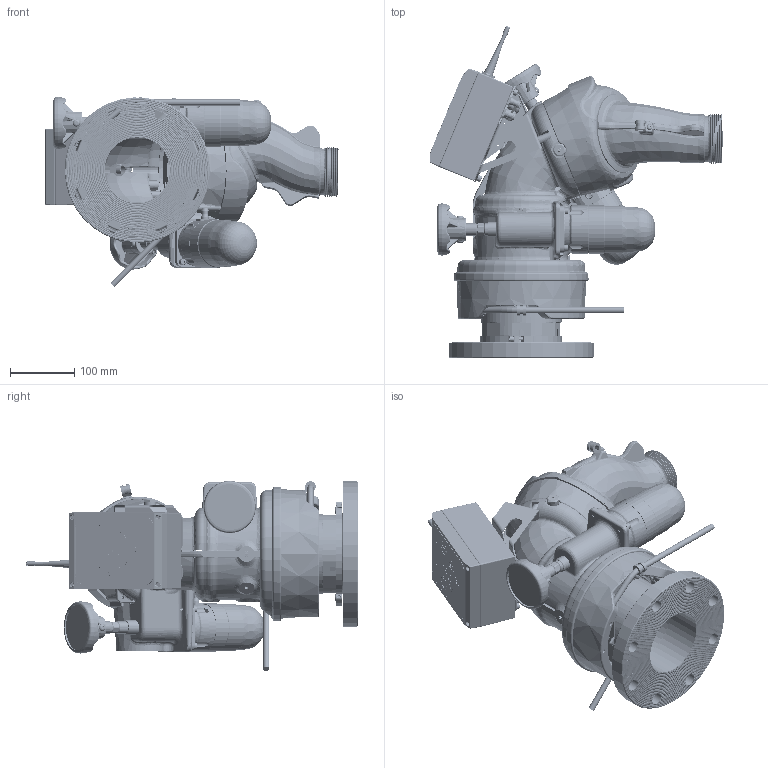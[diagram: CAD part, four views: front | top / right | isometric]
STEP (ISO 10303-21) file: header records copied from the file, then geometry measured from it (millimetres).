
FILE_DESCRIPTION (( 'STEP AP203' ), '1' );
FILE_NAME ('Y4-E25A_Horizontal.STEP', '2014-07-03T17:47:35', ( '' ), ( '' ), 'SwSTEP 2.0', 'SolidWorks 2014', '' );
FILE_SCHEMA (( 'CONFIG_CONTROL_DESIGN' ));
Length unit declared in the file: inch
Products named in the file (1): Y4-E25A_Horizontal
Bounding box: 455.85 x 516.27 x 295.8 mm (x, y, z)
Surface area: 1069998.3 mm2 (no closed solid volume)
Topology: 0 solids, 255 shells, 2981 faces, 12595 edges, 9655 vertices
Faces by surface type: plane 872, cylinder 704, bspline 576, torus 507, cone 297, sphere 25
Entity records: 199290 total; most frequent: CARTESIAN_POINT 105978, ORIENTED_EDGE 18304, DIRECTION 16868, EDGE_CURVE 12562, VERTEX_POINT 9645, AXIS2_PLACEMENT_3D 5822, LINE 5224, VECTOR 5224
